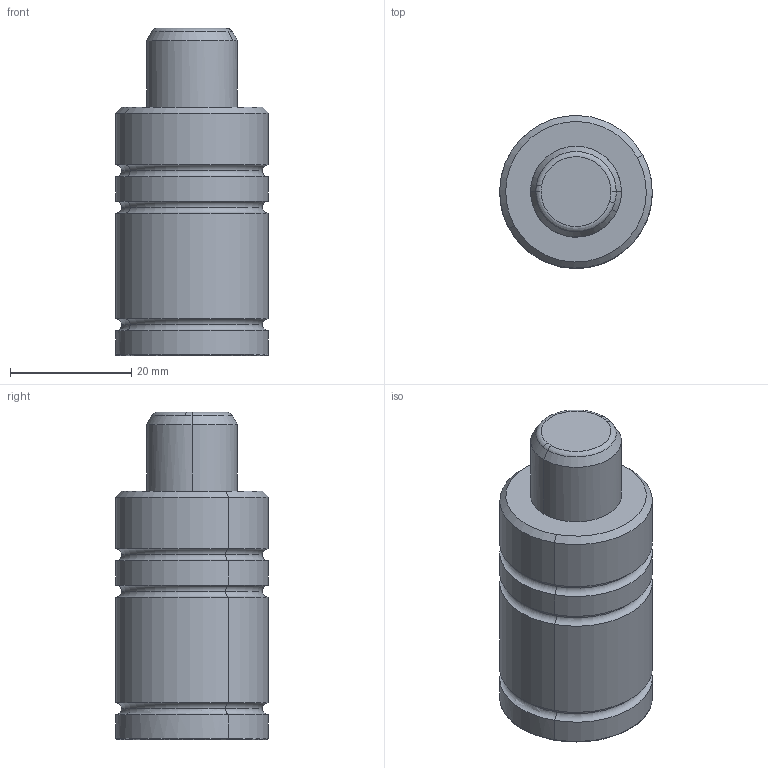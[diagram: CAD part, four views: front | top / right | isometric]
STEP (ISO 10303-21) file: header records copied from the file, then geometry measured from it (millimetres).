
FILE_DESCRIPTION(('CATIA V5 STEP Exchange'),'2;1');
FILE_NAME('W:\CATALOGO GENERAL 2018\FICHEROS CAD\001-MICRO\MICRO 25V\MICRO25Vx12.stp','2021-07-27T06:52:29+00:00',('none'),('none'),'CATIA Version 5 Release 17 (IN-10)','CATIA V5 STEP AP203','none');
FILE_SCHEMA(('CONFIG_CONTROL_DESIGN'));
Length unit declared in the file: millimetre
Products named in the file (1): MICRO25Vx12
Bounding box: 25.19 x 25.19 x 54 mm (x, y, z)
Volume: 22149.1 mm3; surface area: 5429 mm2
Topology: 2 solids, 2 shells, 42 faces, 83 edges, 46 vertices
Faces by surface type: torus 18, cylinder 12, cone 7, plane 5
Entity records: 1135 total; most frequent: CARTESIAN_POINT 282, ORIENTED_EDGE 166, DIRECTION 148, AXIS2_PLACEMENT_3D 94, EDGE_CURVE 83, CIRCLE 57, VERTEX_POINT 46, EDGE_LOOP 43
